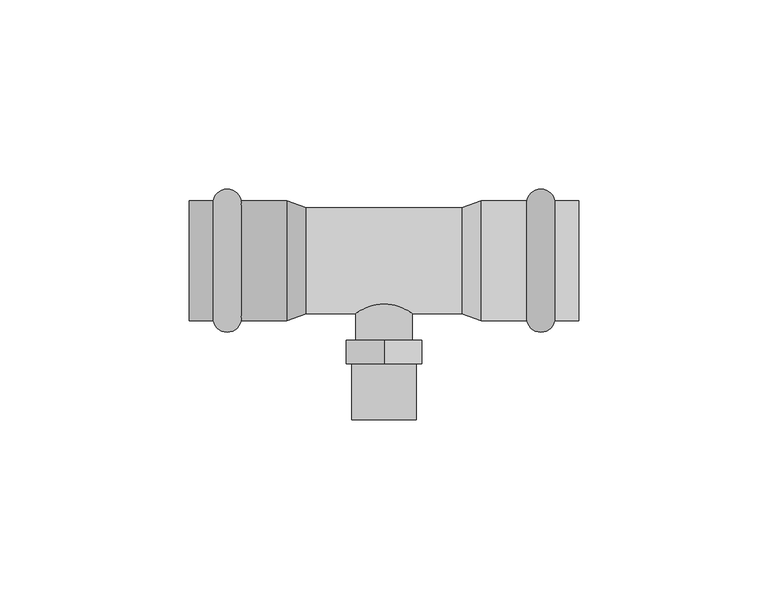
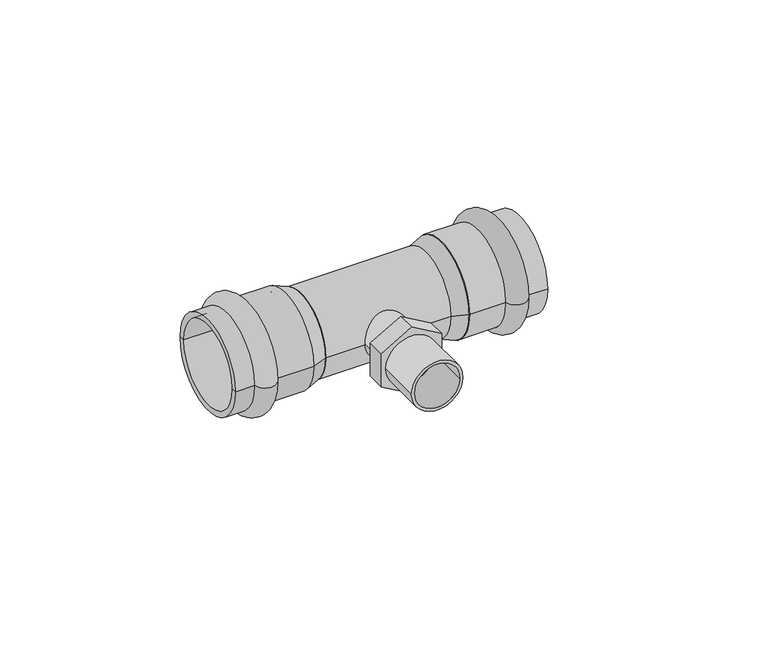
"""IFC4 building model written with IfcOpenShell, lengths in millimetres: pipe fitting geometry, VALTEC_VTi.933.I_Тройник с переходом на наружную  резьбу нержавеющая сталь : VTi.933.I."""

from ifc_helpers import new_model, si_unit, point, frame, origin, origin_2d, place, context, project, spatial, polyline, circle_curve, ellipse_curve, trimmed, segment, composite_curve, outline, extrude, source, transform, mapped, element, save
from ifc_brep_helpers import plane_surface, cylinder_surface, revolved_surface, advanced_brep


def pipe_fitting_5ba7dfc0(model_context):
    return source(origin(), model_context, "Body", "SolidModel", [
        advanced_brep(
        [(45.1242346, 15.9, 0.0), (45.1242346, -15.9, 0.0), (37.7757654, -15.9, 0.0), (37.7757654, 15.9, 0.0), (51.5, 15.9, 0.0), (51.5, -15.9, 0.0), (51.5, 14.0, 0.0), (51.5, -14.0, 0.0), (25.75, 14.0, 0.0), (25.75, -14.0, 0.0), (25.75, 15.9, 0.0), (25.75, -15.9, 0.0)],
        [
            (0, 1, circle_curve(frame((45.1242346, 0.0, 0.0), z_axis=(-1.0, 0.0, 0.0), x_axis=(0.0, -1.0, 0.0)), 15.9)),
            (1, 2, circle_curve(frame((41.45, -15.15, 0.0), z_axis=(0.0, 0.0, -1.0), x_axis=(-1.0, 0.0, 0.0)), 3.75)),
            (2, 3, circle_curve(frame((37.7757654, 0.0, 0.0), z_axis=(1.0, 0.0, 0.0), x_axis=(0.0, -1.0, 0.0)), 15.9)),
            (3, 0, circle_curve(frame((41.45, 15.15, 0.0), z_axis=(0.0, 0.0, -1.0), x_axis=(-1.0, 0.0, 0.0)), 3.75)),
            (1, 0, circle_curve(frame((45.1242346, 0.0, 0.0), z_axis=(-1.0, 0.0, 0.0), x_axis=(0.0, -1.0, 0.0)), 15.9)),
            (3, 2, circle_curve(frame((37.7757654, 0.0, 0.0), z_axis=(1.0, 0.0, 0.0), x_axis=(0.0, -1.0, 0.0)), 15.9)),
            (4, 5, circle_curve(frame((51.5, 0.0, 0.0), z_axis=(-1.0, 0.0, 0.0), x_axis=(0.0, -1.0, 0.0)), 15.9)),
            (5, 1),
            (0, 4),
            (5, 4, circle_curve(frame((51.5, 0.0, 0.0), z_axis=(-1.0, 0.0, 0.0), x_axis=(0.0, -1.0, 0.0)), 15.9)),
            (6, 7, circle_curve(frame((51.5, 0.0, 0.0), z_axis=(-1.0, 0.0, 0.0), x_axis=(0.0, -1.0, 0.0)), 14.0)),
            (7, 5),
            (4, 6),
            (7, 6, circle_curve(frame((51.5, 0.0, 0.0), z_axis=(-1.0, 0.0, 0.0), x_axis=(0.0, -1.0, 0.0)), 14.0)),
            (8, 9, circle_curve(frame((25.75, 0.0, 0.0), z_axis=(-1.0, 0.0, 0.0), x_axis=(0.0, -1.0, 0.0)), 14.0)),
            (9, 7),
            (6, 8),
            (9, 8, circle_curve(frame((25.75, 0.0, 0.0), z_axis=(-1.0, 0.0, 0.0), x_axis=(0.0, -1.0, 0.0)), 14.0)),
            (10, 11, circle_curve(frame((25.75, 0.0, 0.0), z_axis=(-1.0, 0.0, 0.0), x_axis=(0.0, -1.0, 0.0)), 15.9)),
            (11, 9),
            (8, 10),
            (11, 10, circle_curve(frame((25.75, 0.0, 0.0), z_axis=(-1.0, 0.0, 0.0), x_axis=(0.0, -1.0, 0.0)), 15.9)),
            (2, 11),
            (10, 3),
        ],
        [
            revolved_surface(trimmed(ellipse_curve(frame((41.45, -15.15, 0.0), z_axis=(0.0, 0.0, 1.0), x_axis=(-1.0, 0.0, 0.0)), 3.75, 3.75), [point((37.7757654, -15.9, 0.0))], [point((45.1242346, -15.9, 0.0))], True, "CARTESIAN"), (55.0364426, 0.0, 0.0), (1.0, 0.0, 0.0)),
            cylinder_surface(frame((55.0364426, 0.0, 0.0), z_axis=(1.0, 0.0, 0.0), x_axis=(0.0, -1.0, 0.0)), 15.9),
            plane_surface(frame((51.5, 0.0, 0.0), z_axis=(1.0, 0.0, 0.0), x_axis=(0.0, -1.0, 0.0))),
            revolved_surface(polyline([(51.5, -14.0, 0.0), (25.75, -14.0, 0.0)]), (55.0364426, 0.0, 0.0), (1.0, 0.0, 0.0)),
            plane_surface(frame((25.75, 0.0, 0.0), z_axis=(-1.0, 0.0, 0.0), x_axis=(0.0, -1.0, 0.0))),
        ],
        [
            (0, [[1, 2, 3, 4]]),
            (0, [[5, -4, 6, -2]]),
            (1, [[7, 8, -1, 9]]),
            (1, [[10, -9, -5, -8]]),
            (2, [[11, 12, -7, 13]]),
            (2, [[14, -13, -10, -12]]),
            (3, [[15, 16, -11, 17]]),
            (3, [[18, -17, -14, -16]]),
            (4, [[19, 20, -15, 21]]),
            (4, [[22, -21, -18, -20]]),
            (1, [[-3, 23, -19, 24]]),
            (1, [[-6, -24, -22, -23]]),
        ],
    ),
        advanced_brep(
        [(-45.1242346, -15.9, 0.0), (-45.1242346, 15.9, 0.0), (-37.7757654, 15.9, 0.0), (-37.7757654, -15.9, 0.0), (-51.5, -15.9, 0.0), (-51.5, 15.9, 0.0), (-51.5, -14.0, 0.0), (-51.5, 14.0, 0.0), (-25.75, -14.0, 0.0), (-25.75, 14.0, 0.0), (-25.75, -15.9, 0.0), (-25.75, 15.9, 0.0)],
        [
            (0, 1, circle_curve(frame((-45.1242346, 0.0, 0.0), z_axis=(1.0, 0.0, 0.0), x_axis=(0.0, 1.0, 0.0)), 15.9)),
            (1, 2, circle_curve(frame((-41.45, 15.15, 0.0), z_axis=(0.0, 0.0, -1.0), x_axis=(1.0, 0.0, 0.0)), 3.75)),
            (2, 3, circle_curve(frame((-37.7757654, 0.0, 0.0), z_axis=(-1.0, 0.0, 0.0), x_axis=(0.0, 1.0, 0.0)), 15.9)),
            (3, 0, circle_curve(frame((-41.45, -15.15, 0.0), z_axis=(0.0, 0.0, -1.0), x_axis=(1.0, 0.0, 0.0)), 3.75)),
            (1, 0, circle_curve(frame((-45.1242346, 0.0, 0.0), z_axis=(1.0, 0.0, 0.0), x_axis=(0.0, 1.0, 0.0)), 15.9)),
            (3, 2, circle_curve(frame((-37.7757654, 0.0, 0.0), z_axis=(-1.0, 0.0, 0.0), x_axis=(0.0, 1.0, 0.0)), 15.9)),
            (4, 5, circle_curve(frame((-51.5, 0.0, 0.0), z_axis=(1.0, 0.0, 0.0), x_axis=(0.0, 1.0, 0.0)), 15.9)),
            (5, 1),
            (0, 4),
            (5, 4, circle_curve(frame((-51.5, 0.0, 0.0), z_axis=(1.0, 0.0, 0.0), x_axis=(0.0, 1.0, 0.0)), 15.9)),
            (6, 7, circle_curve(frame((-51.5, 0.0, 0.0), z_axis=(1.0, 0.0, 0.0), x_axis=(0.0, 1.0, 0.0)), 14.0)),
            (7, 5),
            (4, 6),
            (7, 6, circle_curve(frame((-51.5, 0.0, 0.0), z_axis=(1.0, 0.0, 0.0), x_axis=(0.0, 1.0, 0.0)), 14.0)),
            (8, 9, circle_curve(frame((-25.75, 0.0, 0.0), z_axis=(1.0, 0.0, 0.0), x_axis=(0.0, 1.0, 0.0)), 14.0)),
            (9, 7),
            (6, 8),
            (9, 8, circle_curve(frame((-25.75, 0.0, 0.0), z_axis=(1.0, 0.0, 0.0), x_axis=(0.0, 1.0, 0.0)), 14.0)),
            (10, 11, circle_curve(frame((-25.75, 0.0, 0.0), z_axis=(1.0, 0.0, 0.0), x_axis=(0.0, 1.0, 0.0)), 15.9)),
            (11, 9),
            (8, 10),
            (11, 10, circle_curve(frame((-25.75, 0.0, 0.0), z_axis=(1.0, 0.0, 0.0), x_axis=(0.0, 1.0, 0.0)), 15.9)),
            (2, 11),
            (10, 3),
        ],
        [
            revolved_surface(trimmed(ellipse_curve(frame((-41.45, 15.15, 0.0), z_axis=(0.0, 0.0, 1.0), x_axis=(1.0, 0.0, 0.0)), 3.75, 3.75), [point((-37.7757654, 15.9, 0.0))], [point((-45.1242346, 15.9, 0.0))], True, "CARTESIAN"), (-55.0364426, 0.0, 0.0), (-1.0, 0.0, 0.0)),
            cylinder_surface(frame((-55.0364426, 0.0, 0.0), z_axis=(-1.0, 0.0, 0.0), x_axis=(0.0, 1.0, 0.0)), 15.9),
            plane_surface(frame((-51.5, 0.0, 0.0), z_axis=(-1.0, 0.0, 0.0), x_axis=(0.0, 1.0, 0.0))),
            revolved_surface(polyline([(-51.5, 14.0, 0.0), (-25.75, 14.0, 0.0)]), (-55.0364426, 0.0, 0.0), (-1.0, 0.0, 0.0)),
            plane_surface(frame((-25.75, 0.0, 0.0), z_axis=(1.0, 0.0, 0.0), x_axis=(0.0, 1.0, 0.0))),
        ],
        [
            (0, [[1, 2, 3, 4]]),
            (0, [[5, -4, 6, -2]]),
            (1, [[7, 8, -1, 9]]),
            (1, [[10, -9, -5, -8]]),
            (2, [[11, 12, -7, 13]]),
            (2, [[14, -13, -10, -12]]),
            (3, [[15, 16, -11, 17]]),
            (3, [[18, -17, -14, -16]]),
            (4, [[19, 20, -15, 21]]),
            (4, [[22, -21, -18, -20]]),
            (1, [[-3, 23, -19, 24]]),
            (1, [[-6, -24, -22, -23]]),
        ],
    ),
        extrude(outline(composite_curve([segment(trimmed(circle_curve(origin_2d(), 8.5), [point((0.0, -8.5))], [point((0.0, 8.5))], False, "CARTESIAN"), True, "CONTINUOUS"), segment(trimmed(circle_curve(origin_2d(), 8.5), [point((0.0, 8.5))], [point((0.0, -8.5))], False, "CARTESIAN"), True, "CONTINUOUS")], self_intersect=False), holes=[composite_curve([segment(trimmed(circle_curve(origin_2d(), 7.5), [point((0.0, -7.5))], [point((0.0, 7.5))], True, "CARTESIAN"), True, "CONTINUOUS"), segment(trimmed(circle_curve(origin_2d(), 7.5), [point((0.0, 7.5))], [point((0.0, -7.5))], True, "CARTESIAN"), True, "CONTINUOUS")], self_intersect=False)]), frame((0.0, -42.0, 0.0), z_axis=(0.0, 1.0, 0.0), x_axis=(0.0, 0.0, 1.0)), (0.0, 0.0, 1.0), 14.7),
        extrude(outline(polyline([(11.5470054, 0.0), (5.7735027, -10.0), (-5.7735027, -10.0), (-11.5470054, 0.0), (-5.7735027, 10.0), (5.7735027, 10.0), (11.5470054, 0.0)]), holes=[composite_curve([segment(trimmed(circle_curve(origin_2d(), 7.5), [point((0.0, -7.5))], [point((0.0, 7.5))], True, "CARTESIAN"), True, "CONTINUOUS"), segment(trimmed(circle_curve(origin_2d(), 7.5), [point((0.0, 7.5))], [point((0.0, -7.5))], True, "CARTESIAN"), True, "CONTINUOUS")], self_intersect=False)]), frame((0.0, -27.3, 0.0), z_axis=(0.0, 1.0, 0.0), x_axis=(0.0, 0.0, 1.0)), (0.0, 0.0, 1.0), 6.3),
        extrude(outline(composite_curve([segment(trimmed(circle_curve(origin_2d(), 7.5), [point((0.0, -7.5))], [point((0.0, 7.5))], False, "CARTESIAN"), True, "CONTINUOUS"), segment(trimmed(circle_curve(origin_2d(), 7.5), [point((0.0, 7.5))], [point((0.0, -7.5))], False, "CARTESIAN"), True, "CONTINUOUS")], self_intersect=False)), frame((0.0, -21.0, 0.0), z_axis=(0.0, 1.0, 0.0), x_axis=(0.0, 0.0, 1.0)), (0.0, 0.0, 1.0), 21.0),
        extrude(outline(composite_curve([segment(trimmed(circle_curve(origin_2d(), 14.0), [point((-14.0, 0.0))], [point((14.0, 0.0))], False, "CARTESIAN"), True, "CONTINUOUS"), segment(trimmed(circle_curve(origin_2d(), 14.0), [point((14.0, 0.0))], [point((-14.0, 0.0))], False, "CARTESIAN"), True, "CONTINUOUS")], self_intersect=False)), frame((-20.6, 0.0, 0.0), z_axis=(1.0, 0.0, 0.0), x_axis=(0.0, 1.0, 0.0)), (0.0, 0.0, 1.0), 41.2),
        advanced_brep(
        [(25.75, -15.9, 0.0), (25.75, 15.9, 0.0), (20.6, -14.0, 0.0), (20.6, 14.0, 0.0)],
        [
            (0, 1, circle_curve(frame((25.75, 0.0, 0.0), z_axis=(1.0, 0.0, 0.0), x_axis=(0.0, -1.0, 0.0)), 15.9)),
            (1, 0, circle_curve(frame((25.75, 0.0, 0.0), z_axis=(1.0, 0.0, 0.0), x_axis=(0.0, 1.0, 0.0)), 15.9)),
            (2, 3, circle_curve(frame((20.6, 0.0, 0.0), z_axis=(-1.0, 0.0, 0.0), x_axis=(0.0, 1.0, 0.0)), 14.0)),
            (3, 2, circle_curve(frame((20.6, 0.0, 0.0), z_axis=(-1.0, 0.0, 0.0), x_axis=(0.0, -1.0, 0.0)), 14.0)),
            (3, 1),
            (0, 2),
        ],
        [
            plane_surface(frame((25.75, 0.0, 0.0), z_axis=(1.0, 0.0, 0.0), x_axis=(0.0, 0.0, 1.0))),
            plane_surface(frame((20.6, 0.0, 0.0), z_axis=(-1.0, 0.0, 0.0), x_axis=(0.0, 0.0, 1.0))),
            revolved_surface(polyline([(20.6, 13.999999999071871, 0.0), (25.75, 15.9, 0.0)]), (-17.3473684, 0.0, 0.0), (1.0, 0.0, 0.0)),
            revolved_surface(polyline([(20.6, -13.999999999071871, 0.0), (25.75, -15.9, 0.0)]), (-17.3473684, 0.0, 0.0), (1.0, 0.0, 0.0)),
        ],
        [
            (0, [[1, 2]]),
            (1, [[3, 4]]),
            (2, [[-4, 5, -1, 6]]),
            (3, [[-3, -6, -2, -5]]),
        ],
    ),
        advanced_brep(
        [(-25.75, -15.9, 0.0), (-25.75, 15.9, 0.0), (-20.6, -14.0, 0.0), (-20.6, 14.0, 0.0)],
        [
            (0, 1, circle_curve(frame((-25.75, 0.0, 0.0), z_axis=(-1.0, 0.0, 0.0), x_axis=(0.0, -1.0, 0.0)), 15.9)),
            (1, 0, circle_curve(frame((-25.75, 0.0, 0.0), z_axis=(-1.0, 0.0, 0.0), x_axis=(0.0, 1.0, 0.0)), 15.9)),
            (2, 3, circle_curve(frame((-20.6, 0.0, 0.0), z_axis=(1.0, 0.0, 0.0), x_axis=(0.0, 1.0, 0.0)), 14.0)),
            (3, 2, circle_curve(frame((-20.6, 0.0, 0.0), z_axis=(1.0, 0.0, 0.0), x_axis=(0.0, -1.0, 0.0)), 14.0)),
            (2, 0),
            (1, 3),
        ],
        [
            plane_surface(frame((-25.75, 0.0, 0.0), z_axis=(-1.0, 0.0, 0.0), x_axis=(0.0, 0.0, -1.0))),
            plane_surface(frame((-20.6, 0.0, 0.0), z_axis=(1.0, 0.0, 0.0), x_axis=(0.0, 0.0, -1.0))),
            revolved_surface(polyline([(-20.6, -13.999999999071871, 0.0), (-25.75, -15.9, 0.0)]), (17.3473684, 0.0, 0.0), (-1.0, 0.0, 0.0)),
            revolved_surface(polyline([(-20.6, 13.999999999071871, 0.0), (-25.75, 15.9, 0.0)]), (17.3473684, 0.0, 0.0), (-1.0, 0.0, 0.0)),
        ],
        [
            (0, [[1, 2]]),
            (1, [[3, 4]]),
            (2, [[-3, 5, -2, 6]]),
            (3, [[-4, -6, -1, -5]]),
        ],
    ),
    ])


if __name__ == "__main__":
    model = new_model("IFC4")
    model_context = context("Model", 3, world=origin())
    ifc_project = project(units=[si_unit("LENGTHUNIT", "METRE", prefix="MILLI")], contexts=[model_context])
    site = spatial("IfcSite", under=ifc_project)
    building = spatial("IfcBuilding", under=site)
    placement = place(None, origin())
    pipe_fitting_shape = pipe_fitting_5ba7dfc0(model_context)
    element("IfcPipeFitting", 1, ObjectType="VALTEC_VTi.933.I_Тройник с переходом на наружную  резьбу нержавеющая сталь : VTi.933.I", at=placement, inside=building, context=model_context, shape_type="MappedRepresentation", body=[
        mapped(pipe_fitting_shape, transform((0.0, 0.0, 0.0), x_axis=(1.0, 0.0, 0.0), y_axis=(0.0, 1.0, 0.0), z_axis=(0.0, 0.0, 1.0))),
    ])
    save(model, "model.ifc")
